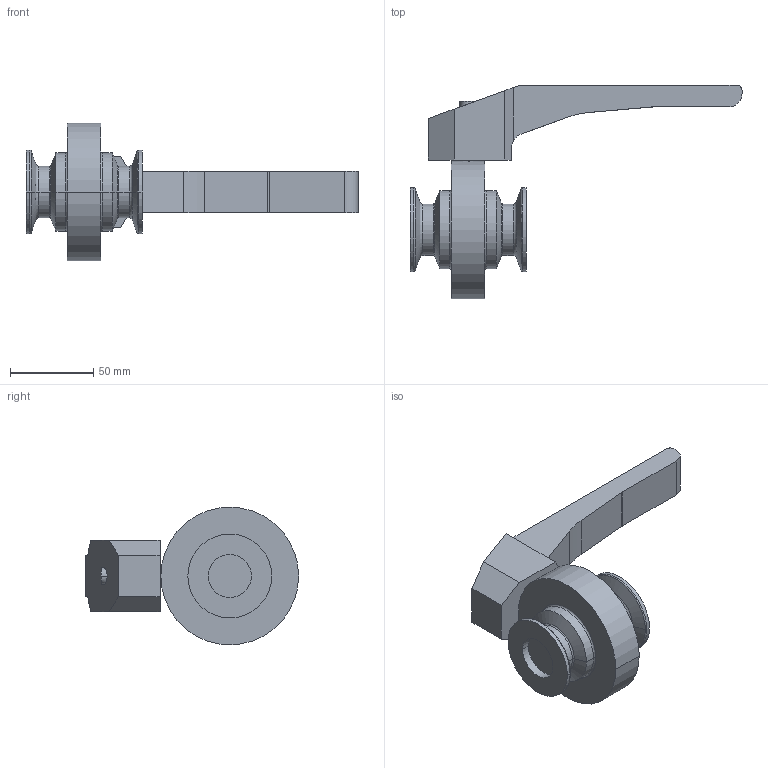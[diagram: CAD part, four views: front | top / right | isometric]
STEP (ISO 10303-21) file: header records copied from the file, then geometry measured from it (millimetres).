
FILE_DESCRIPTION(('OneSpaceDesigner STEP Export'),'2;1');
FILE_NAME('SV1-25-H-12CL.stp','2007-04-19T14:42:56',(''),(''),'OneSpace Designer STEP processor for AP214 (Solid Model)','OneSpace Modeling 15.00 06-Feb-2007 (C) CoCreate Software GmbH','');
FILE_SCHEMA(('AUTOMOTIVE_DESIGN { 1 0 10303 214 1 1 1 1 }'));
Length unit declared in the file: millimetre
Products named in the file (3): SV1-25-H-12CL; Handhebel-SV-40-100; SV1-25-H-12CL-vereint
Assembly tree (2 placements, depth 2):
  SV1-25-H-12CL-vereint
    Handhebel-SV-40-100
    SV1-25-H-12CL
Bounding box: 200 x 128.5 x 83 mm (x, y, z)
Volume: 295958.3 mm3; surface area: 47608.5 mm2
Topology: 2 solids, 2 shells, 76 faces, 167 edges, 100 vertices
Faces by surface type: cylinder 27, plane 25, torus 16, cone 8
Entity records: 2289 total; most frequent: CARTESIAN_POINT 689, ORIENTED_EDGE 334, DIRECTION 303, EDGE_CURVE 167, AXIS2_PLACEMENT_3D 113, VERTEX_POINT 100, EDGE_LOOP 81, VECTOR 77
